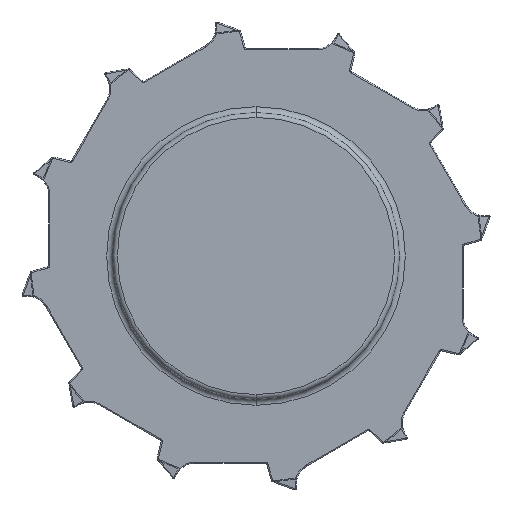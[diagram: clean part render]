
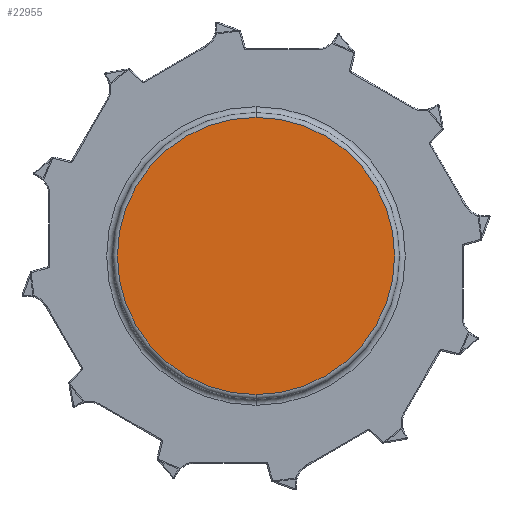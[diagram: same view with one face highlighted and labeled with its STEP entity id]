
A CAD part, left-side view. The second image highlights one B-rep face of the part: STEP entity #22955.
In plain terms, the highlighted planar face has unit normal (-1, 0, 0).
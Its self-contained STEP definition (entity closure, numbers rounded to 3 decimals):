
#6703=CARTESIAN_POINT('',(-21.15,0.,0.));
#6704=DIRECTION('',(-1.,0.,0.));
#6705=DIRECTION('',(0.,0.,1.));
#6706=AXIS2_PLACEMENT_3D('',#6703,#6704,#6705);
#6711=CARTESIAN_POINT('',(-21.15,0.,0.));
#6712=DIRECTION('',(1.,0.,0.));
#6713=DIRECTION('',(0.,0.,1.));
#6714=AXIS2_PLACEMENT_3D('',#6711,#6712,#6713);
#16994=CARTESIAN_POINT('',(-21.15,0.,58.));
#16995=VERTEX_POINT('',#16994);
#17010=CARTESIAN_POINT('',(-21.15,0.,-58.));
#17011=VERTEX_POINT('',#17010);
#22946=CARTESIAN_POINT('',(-21.15,0.,0.));
#22947=DIRECTION('',(1.,0.,0.));
#22948=DIRECTION('',(0.,0.,-1.));
#22949=AXIS2_PLACEMENT_3D('',#22946,#22947,#22948);
#22950=PLANE('',#22949);
#22951=ORIENTED_EDGE('',*,*,#22925,.F.);
#22952=ORIENTED_EDGE('',*,*,#22941,.T.);
#22953=EDGE_LOOP('',(#22951,#22952));
#22954=FACE_OUTER_BOUND('',#22953,.F.);
#6707=CIRCLE('',#6706,58.);
#6715=CIRCLE('',#6714,58.);
#22925=EDGE_CURVE('',#16995,#17011,#6707,.T.);
#22941=EDGE_CURVE('',#16995,#17011,#6715,.T.);
#22955=ADVANCED_FACE('',(#22954),#22950,.F.);
